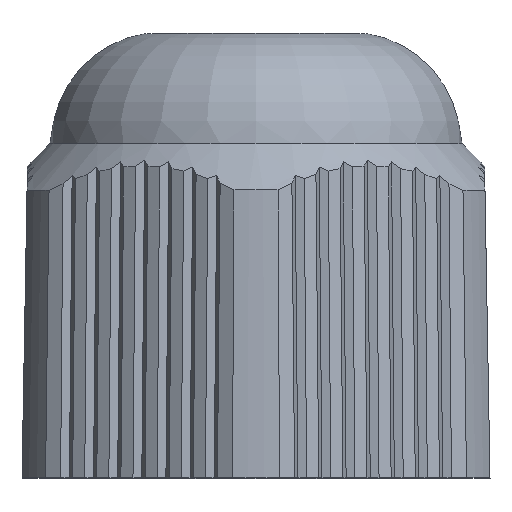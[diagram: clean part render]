
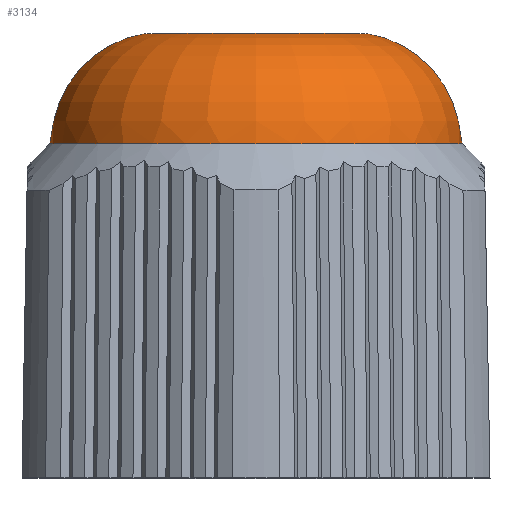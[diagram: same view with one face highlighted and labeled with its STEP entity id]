
A CAD part, top view. The second image highlights one B-rep face of the part: STEP entity #3134.
In plain terms, the highlighted toroidal (fillet/blend) face has major radius 3.4 mm and minor radius 4 mm.
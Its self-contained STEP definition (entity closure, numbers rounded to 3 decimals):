
#368 = DIRECTION ( 'NONE',  ( 0., -1., 0. ) ) ;
#498 = ORIENTED_EDGE ( 'NONE', *, *, #5055, .T. ) ;
#520 = CARTESIAN_POINT ( 'NONE',  ( 0., 12., -7.4 ) ) ;
#697 = EDGE_LOOP ( 'NONE', ( #498 ) ) ;
#957 = DIRECTION ( 'NONE',  ( 0., 0., -1. ) ) ;
#1048 = VERTEX_POINT ( 'NONE', #3195 ) ;
#1101 = CARTESIAN_POINT ( 'NONE',  ( 0., 12., 0. ) ) ;
#1803 = ORIENTED_EDGE ( 'NONE', *, *, #5134, .F. ) ;
#2003 = CARTESIAN_POINT ( 'NONE',  ( 0., 12., 0. ) ) ;
#2523 = AXIS2_PLACEMENT_3D ( 'NONE', #2003, #368, #4147 ) ;
#3134 = ADVANCED_FACE ( 'NONE', ( #5688, #6802 ), #4211, .T. ) ;
#3140 = DIRECTION ( 'NONE',  ( 0., -1., 0. ) ) ;
#3195 = CARTESIAN_POINT ( 'NONE',  ( 0., 15.959, -3.971 ) ) ;
#3200 = CIRCLE ( 'NONE', #4222, 7.4 ) ;
#4147 = DIRECTION ( 'NONE',  ( 0., 0., -1. ) ) ;
#4211 = TOROIDAL_SURFACE ( 'NONE', #2523, 3.4, 4. ) ;
#4222 = AXIS2_PLACEMENT_3D ( 'NONE', #1101, #3140, #957 ) ;
#5055 = EDGE_CURVE ( 'NONE', #1048, #1048, #6821, .T. ) ;
#5134 = EDGE_CURVE ( 'NONE', #5362, #5362, #3200, .T. ) ;
#5362 = VERTEX_POINT ( 'NONE', #520 ) ;
#5688 = FACE_OUTER_BOUND ( 'NONE', #697, .T. ) ;
#5840 = DIRECTION ( 'NONE',  ( 0., 0., -1. ) ) ;
#5877 = DIRECTION ( 'NONE',  ( 0., -1., 0. ) ) ;
#6490 = EDGE_LOOP ( 'NONE', ( #1803 ) ) ;
#6802 = FACE_OUTER_BOUND ( 'NONE', #6490, .T. ) ;
#6821 = CIRCLE ( 'NONE', #6931, 3.971 ) ;
#6886 = CARTESIAN_POINT ( 'NONE',  ( 0., 15.959, 0. ) ) ;
#6931 = AXIS2_PLACEMENT_3D ( 'NONE', #6886, #5877, #5840 ) ;
